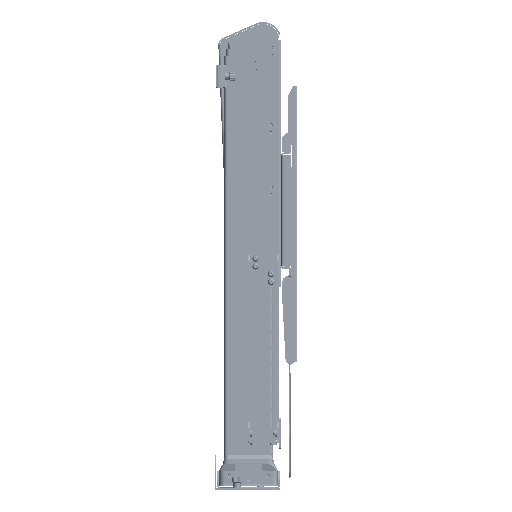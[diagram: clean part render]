
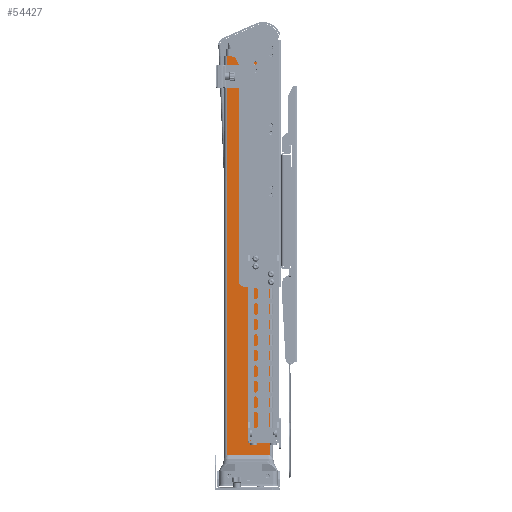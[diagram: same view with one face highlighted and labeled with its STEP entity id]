
A CAD part, left-side view. The second image highlights one B-rep face of the part: STEP entity #54427.
In plain terms, the highlighted planar face has unit normal (-1, 0, 0) as drawn and (0, -1, 0) by its records, which use the part's own axes.
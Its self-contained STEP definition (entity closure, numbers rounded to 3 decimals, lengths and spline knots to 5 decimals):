
#157=ELLIPSE('',#62299,0.02082,0.008);
#162=ELLIPSE('',#62306,0.02082,0.008);
#7139=LINE('',#95402,#12089);
#7411=LINE('',#96101,#12361);
#7414=LINE('',#96109,#12364);
#7417=LINE('',#96117,#12367);
#7419=LINE('',#96121,#12369);
#7421=LINE('',#96125,#12371);
#7424=LINE('',#96133,#12374);
#7427=LINE('',#96141,#12377);
#7429=LINE('',#96145,#12379);
#7473=LINE('',#96257,#12423);
#7474=LINE('',#96259,#12424);
#7476=LINE('',#96262,#12426);
#12089=VECTOR('',#76486,1.);
#12361=VECTOR('',#77118,1.);
#12364=VECTOR('',#77127,1.);
#12367=VECTOR('',#77136,1.);
#12369=VECTOR('',#77140,1.);
#12371=VECTOR('',#77144,1.);
#12374=VECTOR('',#77153,1.);
#12377=VECTOR('',#77162,1.);
#12379=VECTOR('',#77166,1.);
#12423=VECTOR('',#77282,1.);
#12424=VECTOR('',#77285,1.);
#12426=VECTOR('',#77289,1.);
#26861=ORIENTED_EDGE('',*,*,#34472,.T.);
#26862=ORIENTED_EDGE('',*,*,#34469,.T.);
#26863=ORIENTED_EDGE('',*,*,#34465,.T.);
#26864=ORIENTED_EDGE('',*,*,#34897,.F.);
#26865=ORIENTED_EDGE('',*,*,#34838,.T.);
#26866=ORIENTED_EDGE('',*,*,#34836,.T.);
#26867=ORIENTED_EDGE('',*,*,#34834,.F.);
#26868=ORIENTED_EDGE('',*,*,#34832,.T.);
#26869=ORIENTED_EDGE('',*,*,#34830,.F.);
#26870=ORIENTED_EDGE('',*,*,#34828,.T.);
#26871=ORIENTED_EDGE('',*,*,#34826,.T.);
#26872=ORIENTED_EDGE('',*,*,#34824,.T.);
#26873=ORIENTED_EDGE('',*,*,#34822,.F.);
#26874=ORIENTED_EDGE('',*,*,#34820,.T.);
#26875=ORIENTED_EDGE('',*,*,#34818,.F.);
#26876=ORIENTED_EDGE('',*,*,#34816,.T.);
#26877=ORIENTED_EDGE('',*,*,#34894,.T.);
#26878=ORIENTED_EDGE('',*,*,#34895,.T.);
#34465=EDGE_CURVE('',#39760,#39758,#157,.F.);
#34469=EDGE_CURVE('',#39761,#39760,#7139,.T.);
#34472=EDGE_CURVE('',#39763,#39761,#162,.F.);
#34816=EDGE_CURVE('',#40001,#40000,#7411,.T.);
#34818=EDGE_CURVE('',#40001,#40002,#42264,.T.);
#34820=EDGE_CURVE('',#40003,#40002,#7414,.T.);
#34822=EDGE_CURVE('',#40003,#40004,#42265,.T.);
#34824=EDGE_CURVE('',#40005,#40004,#7417,.T.);
#34826=EDGE_CURVE('',#40006,#40005,#7419,.T.);
#34828=EDGE_CURVE('',#40007,#40006,#7421,.T.);
#34830=EDGE_CURVE('',#40007,#40008,#42266,.T.);
#34832=EDGE_CURVE('',#40009,#40008,#7424,.T.);
#34834=EDGE_CURVE('',#40009,#40010,#42267,.T.);
#34836=EDGE_CURVE('',#40011,#40010,#7427,.T.);
#34838=EDGE_CURVE('',#40012,#40011,#7429,.T.);
#34894=EDGE_CURVE('',#40000,#40043,#7473,.T.);
#34895=EDGE_CURVE('',#40043,#39763,#7474,.T.);
#34897=EDGE_CURVE('',#40012,#39758,#7476,.T.);
#39758=VERTEX_POINT('',#95393);
#39760=VERTEX_POINT('',#95396);
#39761=VERTEX_POINT('',#95401);
#39763=VERTEX_POINT('',#95413);
#40000=VERTEX_POINT('',#96100);
#40001=VERTEX_POINT('',#96102);
#40002=VERTEX_POINT('',#96106);
#40003=VERTEX_POINT('',#96110);
#40004=VERTEX_POINT('',#96114);
#40005=VERTEX_POINT('',#96118);
#40006=VERTEX_POINT('',#96122);
#40007=VERTEX_POINT('',#96126);
#40008=VERTEX_POINT('',#96130);
#40009=VERTEX_POINT('',#96134);
#40010=VERTEX_POINT('',#96138);
#40011=VERTEX_POINT('',#96142);
#40012=VERTEX_POINT('',#96146);
#40043=VERTEX_POINT('',#96256);
#42264=CIRCLE('',#62485,0.0005);
#42265=CIRCLE('',#62488,0.0005);
#42266=CIRCLE('',#62493,0.0005);
#42267=CIRCLE('',#62496,0.0005);
#45955=EDGE_LOOP('',(#26861,#26862,#26863,#26864,#26865,#26866,#26867,#26868,
#26869,#26870,#26871,#26872,#26873,#26874,#26875,#26876,#26877,#26878));
#49737=FACE_BOUND('',#45955,.T.);
#51525=PLANE('',#62536);
#54427=ADVANCED_FACE('',(#49737),#51525,.T.);
#62299=AXIS2_PLACEMENT_3D('',#95395,#76476,#76477);
#62306=AXIS2_PLACEMENT_3D('',#95415,#76491,#76492);
#62485=AXIS2_PLACEMENT_3D('',#96105,#77122,#77123);
#62488=AXIS2_PLACEMENT_3D('',#96113,#77131,#77132);
#62493=AXIS2_PLACEMENT_3D('',#96129,#77148,#77149);
#62496=AXIS2_PLACEMENT_3D('',#96137,#77157,#77158);
#62536=AXIS2_PLACEMENT_3D('',#96261,#77287,#77288);
#76476=DIRECTION('',(0.,-1.,0.));
#76477=DIRECTION('',(0.197,0.,-0.98));
#76486=DIRECTION('',(1.,0.,0.));
#76491=DIRECTION('',(0.,-1.,0.));
#76492=DIRECTION('',(0.197,0.,0.98));
#77118=DIRECTION('',(0.,0.,1.));
#77122=DIRECTION('',(0.,-1.,0.));
#77123=DIRECTION('',(1.,0.,0.));
#77127=DIRECTION('',(-1.,0.,0.));
#77131=DIRECTION('',(0.,-1.,0.));
#77132=DIRECTION('',(1.,0.,0.));
#77136=DIRECTION('',(0.,0.,-1.));
#77140=DIRECTION('',(-1.,0.,0.));
#77144=DIRECTION('',(0.,0.,1.));
#77148=DIRECTION('',(0.,-1.,0.));
#77149=DIRECTION('',(1.,0.,0.));
#77153=DIRECTION('',(-1.,0.,0.));
#77157=DIRECTION('',(0.,-1.,0.));
#77158=DIRECTION('',(1.,0.,0.));
#77162=DIRECTION('',(0.,0.,-1.));
#77166=DIRECTION('',(-1.,0.,0.));
#77282=DIRECTION('',(-1.,0.,0.));
#77285=DIRECTION('',(0.,0.,-1.));
#77287=DIRECTION('',(0.,-1.,0.));
#77288=DIRECTION('',(-1.,0.,0.));
#77289=DIRECTION('',(0.,0.,-1.));
#95393=CARTESIAN_POINT('',(0.035,0.0039,0.04606));
#95395=CARTESIAN_POINT('',(0.03471,0.0039,0.0275));
#95396=CARTESIAN_POINT('',(0.03415,0.0039,0.0468));
#95401=CARTESIAN_POINT('',(-0.03415,0.0039,0.0468));
#95402=CARTESIAN_POINT('',(-0.03415,0.0039,0.0468));
#95413=CARTESIAN_POINT('',(-0.035,0.0039,0.04606));
#95415=CARTESIAN_POINT('',(-0.03471,0.0039,0.0275));
#96100=CARTESIAN_POINT('',(-0.02725,0.0039,0.6992));
#96101=CARTESIAN_POINT('',(-0.02725,0.0039,0.37263));
#96102=CARTESIAN_POINT('',(-0.02725,0.0039,0.6981));
#96105=CARTESIAN_POINT('',(-0.02675,0.0039,0.6981));
#96106=CARTESIAN_POINT('',(-0.02675,0.0039,0.6976));
#96109=CARTESIAN_POINT('',(0.,0.0039,0.6976));
#96110=CARTESIAN_POINT('',(-0.02125,0.0039,0.6976));
#96113=CARTESIAN_POINT('',(-0.02125,0.0039,0.6981));
#96114=CARTESIAN_POINT('',(-0.02075,0.0039,0.6981));
#96117=CARTESIAN_POINT('',(-0.02075,0.0039,0.37263));
#96118=CARTESIAN_POINT('',(-0.02075,0.0039,0.6992));
#96121=CARTESIAN_POINT('',(0.,0.0039,0.6992));
#96122=CARTESIAN_POINT('',(0.02075,0.0039,0.6992));
#96125=CARTESIAN_POINT('',(0.02075,0.0039,0.37263));
#96126=CARTESIAN_POINT('',(0.02075,0.0039,0.6981));
#96129=CARTESIAN_POINT('',(0.02125,0.0039,0.6981));
#96130=CARTESIAN_POINT('',(0.02125,0.0039,0.6976));
#96133=CARTESIAN_POINT('',(0.,0.0039,0.6976));
#96134=CARTESIAN_POINT('',(0.02675,0.0039,0.6976));
#96137=CARTESIAN_POINT('',(0.02675,0.0039,0.6981));
#96138=CARTESIAN_POINT('',(0.02725,0.0039,0.6981));
#96141=CARTESIAN_POINT('',(0.02725,0.0039,0.37263));
#96142=CARTESIAN_POINT('',(0.02725,0.0039,0.6992));
#96145=CARTESIAN_POINT('',(0.,0.0039,0.6992));
#96146=CARTESIAN_POINT('',(0.035,0.0039,0.6992));
#96256=CARTESIAN_POINT('',(-0.035,0.0039,0.6992));
#96257=CARTESIAN_POINT('',(-0.02725,0.0039,0.6992));
#96259=CARTESIAN_POINT('',(-0.035,0.0039,0.6992));
#96261=CARTESIAN_POINT('',(0.,0.0039,0.37263));
#96262=CARTESIAN_POINT('',(0.035,0.0039,0.6992));
